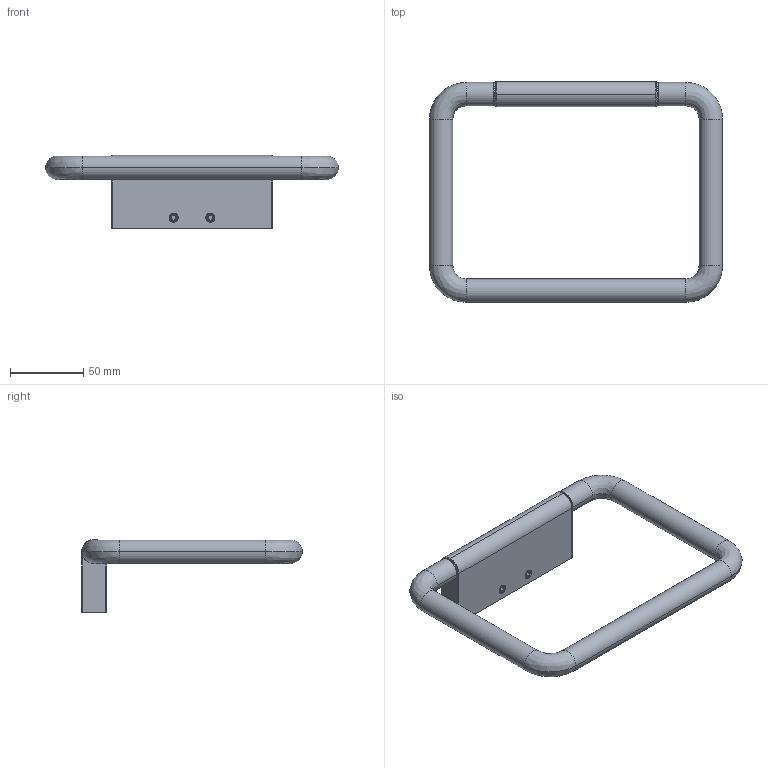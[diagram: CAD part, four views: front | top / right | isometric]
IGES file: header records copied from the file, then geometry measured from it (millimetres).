
Start section: SolidWorks IGES file using analytic representation for surfaces
Global section: file name: G:\Projects\New project\For Marketing\X_T\2019-01-31\251##71VW.IGS; native system: SolidWorks 2016; preprocessor: SolidWorks 2016; author: merry; date: 190122.171222; units: millimetre
Bounding box: 200 x 150.5 x 50 mm (x, y, z)
Surface area: 51196.5 mm2 (no closed solid volume)
Topology: 0 solids, 0 shells, 249 faces, 3240 edges, 3224 vertices
Faces by surface type: revolution 126, bspline 123
